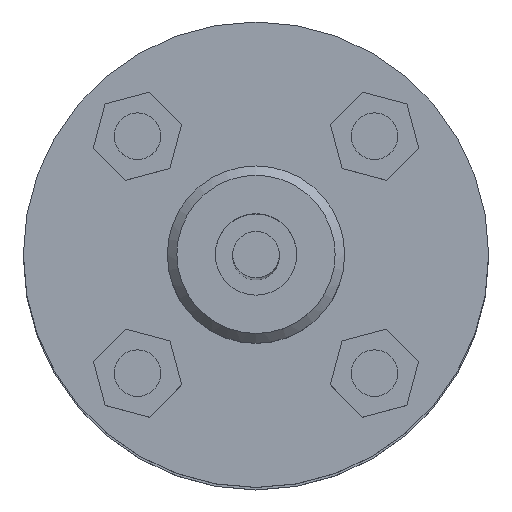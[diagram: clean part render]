
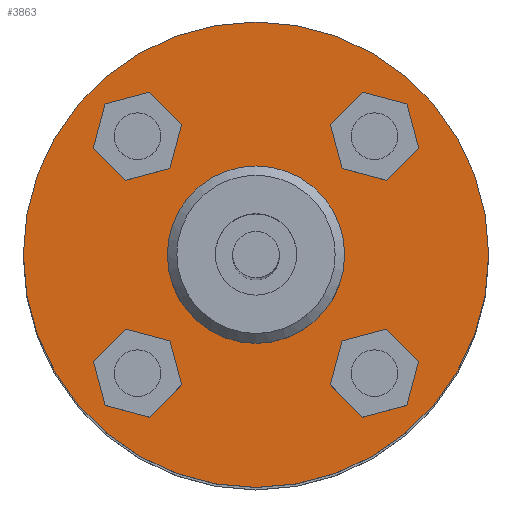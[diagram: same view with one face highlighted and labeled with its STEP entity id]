
A CAD part, top view. The second image highlights one B-rep face of the part: STEP entity #3863.
In plain terms, the highlighted planar face has unit normal (0, 0, 1).
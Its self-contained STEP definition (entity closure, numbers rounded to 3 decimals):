
#86=FACE_BOUND('',#739,.T.);
#87=FACE_BOUND('',#740,.T.);
#88=FACE_BOUND('',#741,.T.);
#89=FACE_BOUND('',#742,.T.);
#90=FACE_BOUND('',#743,.T.);
#91=FACE_BOUND('',#744,.T.);
#278=PLANE('',#4235);
#739=EDGE_LOOP('',(#3484,#3485,#3486,#3487,#3488,#3489));
#740=EDGE_LOOP('',(#3490,#3491,#3492,#3493,#3494,#3495));
#741=EDGE_LOOP('',(#3496,#3497,#3498,#3499,#3500,#3501));
#742=EDGE_LOOP('',(#3502,#3503,#3504,#3505,#3506,#3507));
#743=EDGE_LOOP('',(#3508));
#744=EDGE_LOOP('',(#3509));
#1047=LINE('',#6226,#1399);
#1051=LINE('',#6234,#1403);
#1054=LINE('',#6240,#1406);
#1057=LINE('',#6246,#1409);
#1060=LINE('',#6252,#1412);
#1063=LINE('',#6257,#1415);
#1065=LINE('',#6272,#1417);
#1069=LINE('',#6280,#1421);
#1072=LINE('',#6286,#1424);
#1075=LINE('',#6292,#1427);
#1078=LINE('',#6298,#1430);
#1081=LINE('',#6303,#1433);
#1083=LINE('',#6318,#1435);
#1087=LINE('',#6326,#1439);
#1090=LINE('',#6332,#1442);
#1093=LINE('',#6338,#1445);
#1096=LINE('',#6344,#1448);
#1099=LINE('',#6349,#1451);
#1101=LINE('',#6364,#1453);
#1105=LINE('',#6372,#1457);
#1108=LINE('',#6378,#1460);
#1111=LINE('',#6384,#1463);
#1114=LINE('',#6390,#1466);
#1117=LINE('',#6395,#1469);
#1399=VECTOR('',#5125,9.815);
#1403=VECTOR('',#5131,9.815);
#1406=VECTOR('',#5136,9.815);
#1409=VECTOR('',#5141,9.815);
#1412=VECTOR('',#5146,9.815);
#1415=VECTOR('',#5151,9.815);
#1417=VECTOR('',#5169,9.815);
#1421=VECTOR('',#5175,9.815);
#1424=VECTOR('',#5180,9.815);
#1427=VECTOR('',#5185,9.815);
#1430=VECTOR('',#5190,9.815);
#1433=VECTOR('',#5195,9.815);
#1435=VECTOR('',#5213,9.815);
#1439=VECTOR('',#5219,9.815);
#1442=VECTOR('',#5224,9.815);
#1445=VECTOR('',#5229,9.815);
#1448=VECTOR('',#5234,9.815);
#1451=VECTOR('',#5239,9.815);
#1453=VECTOR('',#5257,9.815);
#1457=VECTOR('',#5263,9.815);
#1460=VECTOR('',#5268,9.815);
#1463=VECTOR('',#5273,9.815);
#1466=VECTOR('',#5278,9.815);
#1469=VECTOR('',#5283,9.815);
#1620=CIRCLE('',#4230,19.05);
#1622=CIRCLE('',#4234,50.);
#1919=VERTEX_POINT('',#6224);
#1920=VERTEX_POINT('',#6225);
#1923=VERTEX_POINT('',#6233);
#1925=VERTEX_POINT('',#6239);
#1927=VERTEX_POINT('',#6245);
#1929=VERTEX_POINT('',#6251);
#1934=VERTEX_POINT('',#6270);
#1935=VERTEX_POINT('',#6271);
#1938=VERTEX_POINT('',#6279);
#1940=VERTEX_POINT('',#6285);
#1942=VERTEX_POINT('',#6291);
#1944=VERTEX_POINT('',#6297);
#1949=VERTEX_POINT('',#6316);
#1950=VERTEX_POINT('',#6317);
#1953=VERTEX_POINT('',#6325);
#1955=VERTEX_POINT('',#6331);
#1957=VERTEX_POINT('',#6337);
#1959=VERTEX_POINT('',#6343);
#1964=VERTEX_POINT('',#6362);
#1965=VERTEX_POINT('',#6363);
#1968=VERTEX_POINT('',#6371);
#1970=VERTEX_POINT('',#6377);
#1972=VERTEX_POINT('',#6383);
#1974=VERTEX_POINT('',#6389);
#1981=VERTEX_POINT('',#6414);
#1983=VERTEX_POINT('',#6420);
#2408=EDGE_CURVE('',#1919,#1920,#1047,.T.);
#2412=EDGE_CURVE('',#1920,#1923,#1051,.T.);
#2415=EDGE_CURVE('',#1923,#1925,#1054,.T.);
#2418=EDGE_CURVE('',#1925,#1927,#1057,.T.);
#2421=EDGE_CURVE('',#1927,#1929,#1060,.T.);
#2424=EDGE_CURVE('',#1929,#1919,#1063,.T.);
#2429=EDGE_CURVE('',#1934,#1935,#1065,.T.);
#2433=EDGE_CURVE('',#1935,#1938,#1069,.T.);
#2436=EDGE_CURVE('',#1938,#1940,#1072,.T.);
#2439=EDGE_CURVE('',#1940,#1942,#1075,.T.);
#2442=EDGE_CURVE('',#1942,#1944,#1078,.T.);
#2445=EDGE_CURVE('',#1944,#1934,#1081,.T.);
#2450=EDGE_CURVE('',#1949,#1950,#1083,.T.);
#2454=EDGE_CURVE('',#1950,#1953,#1087,.T.);
#2457=EDGE_CURVE('',#1953,#1955,#1090,.T.);
#2460=EDGE_CURVE('',#1955,#1957,#1093,.T.);
#2463=EDGE_CURVE('',#1957,#1959,#1096,.T.);
#2466=EDGE_CURVE('',#1959,#1949,#1099,.T.);
#2471=EDGE_CURVE('',#1964,#1965,#1101,.T.);
#2475=EDGE_CURVE('',#1965,#1968,#1105,.T.);
#2478=EDGE_CURVE('',#1968,#1970,#1108,.T.);
#2481=EDGE_CURVE('',#1970,#1972,#1111,.T.);
#2484=EDGE_CURVE('',#1972,#1974,#1114,.T.);
#2487=EDGE_CURVE('',#1974,#1964,#1117,.T.);
#2494=EDGE_CURVE('',#1981,#1981,#1620,.T.);
#2496=EDGE_CURVE('',#1983,#1983,#1622,.T.);
#3484=ORIENTED_EDGE('',*,*,#2408,.T.);
#3485=ORIENTED_EDGE('',*,*,#2412,.T.);
#3486=ORIENTED_EDGE('',*,*,#2415,.T.);
#3487=ORIENTED_EDGE('',*,*,#2418,.T.);
#3488=ORIENTED_EDGE('',*,*,#2421,.T.);
#3489=ORIENTED_EDGE('',*,*,#2424,.T.);
#3490=ORIENTED_EDGE('',*,*,#2429,.T.);
#3491=ORIENTED_EDGE('',*,*,#2433,.T.);
#3492=ORIENTED_EDGE('',*,*,#2436,.T.);
#3493=ORIENTED_EDGE('',*,*,#2439,.T.);
#3494=ORIENTED_EDGE('',*,*,#2442,.T.);
#3495=ORIENTED_EDGE('',*,*,#2445,.T.);
#3496=ORIENTED_EDGE('',*,*,#2450,.T.);
#3497=ORIENTED_EDGE('',*,*,#2454,.T.);
#3498=ORIENTED_EDGE('',*,*,#2457,.T.);
#3499=ORIENTED_EDGE('',*,*,#2460,.T.);
#3500=ORIENTED_EDGE('',*,*,#2463,.T.);
#3501=ORIENTED_EDGE('',*,*,#2466,.T.);
#3502=ORIENTED_EDGE('',*,*,#2471,.T.);
#3503=ORIENTED_EDGE('',*,*,#2475,.T.);
#3504=ORIENTED_EDGE('',*,*,#2478,.T.);
#3505=ORIENTED_EDGE('',*,*,#2481,.T.);
#3506=ORIENTED_EDGE('',*,*,#2484,.T.);
#3507=ORIENTED_EDGE('',*,*,#2487,.T.);
#3508=ORIENTED_EDGE('',*,*,#2494,.T.);
#3509=ORIENTED_EDGE('',*,*,#2496,.T.);
#3863=ADVANCED_FACE('',(#86,#87,#88,#89,#90,#91),#278,.T.);
#4230=AXIS2_PLACEMENT_3D('',#6415,#5309,#5310);
#4234=AXIS2_PLACEMENT_3D('',#6421,#5317,#5318);
#4235=AXIS2_PLACEMENT_3D('',#6422,#5319,#5320);
#5125=DIRECTION('',(-0.707,0.707,0.));
#5131=DIRECTION('',(0.259,0.966,0.));
#5136=DIRECTION('',(0.966,0.259,0.));
#5141=DIRECTION('',(0.707,-0.707,0.));
#5146=DIRECTION('',(-0.259,-0.966,0.));
#5151=DIRECTION('',(-0.966,-0.259,0.));
#5169=DIRECTION('',(0.707,0.707,0.));
#5175=DIRECTION('',(0.966,-0.259,0.));
#5180=DIRECTION('',(0.259,-0.966,0.));
#5185=DIRECTION('',(-0.707,-0.707,0.));
#5190=DIRECTION('',(-0.966,0.259,0.));
#5195=DIRECTION('',(-0.259,0.966,0.));
#5213=DIRECTION('',(0.707,-0.707,0.));
#5219=DIRECTION('',(-0.259,-0.966,0.));
#5224=DIRECTION('',(-0.966,-0.259,0.));
#5229=DIRECTION('',(-0.707,0.707,0.));
#5234=DIRECTION('',(0.259,0.966,0.));
#5239=DIRECTION('',(0.966,0.259,0.));
#5257=DIRECTION('',(-0.707,-0.707,0.));
#5263=DIRECTION('',(-0.966,0.259,0.));
#5268=DIRECTION('',(-0.259,0.966,0.));
#5273=DIRECTION('',(0.707,0.707,0.));
#5278=DIRECTION('',(0.966,-0.259,0.));
#5283=DIRECTION('',(0.259,-0.966,0.));
#5309=DIRECTION('center_axis',(0.,0.,-1.));
#5310=DIRECTION('ref_axis',(0.,1.,0.));
#5317=DIRECTION('center_axis',(0.,0.,1.));
#5318=DIRECTION('ref_axis',(-1.,0.,0.));
#5319=DIRECTION('center_axis',(0.,0.,1.));
#5320=DIRECTION('ref_axis',(1.,0.,0.));
#6224=CARTESIAN_POINT('',(22.916,-34.936,160.));
#6225=CARTESIAN_POINT('',(15.975,-27.996,160.));
#6226=CARTESIAN_POINT('',(4.982,-17.003,160.));
#6233=CARTESIAN_POINT('',(18.516,-18.516,160.));
#6234=CARTESIAN_POINT('',(20.21,-12.192,160.));
#6239=CARTESIAN_POINT('',(27.996,-15.975,160.));
#6240=CARTESIAN_POINT('',(16.933,-18.94,160.));
#6245=CARTESIAN_POINT('',(34.936,-22.916,160.));
#6246=CARTESIAN_POINT('',(20.473,-8.453,160.));
#6251=CARTESIAN_POINT('',(32.396,-32.396,160.));
#6252=CARTESIAN_POINT('',(35.361,-21.333,160.));
#6257=CARTESIAN_POINT('',(16.592,-36.631,160.));
#6270=CARTESIAN_POINT('',(-34.936,-22.916,160.));
#6271=CARTESIAN_POINT('',(-27.996,-15.975,160.));
#6272=CARTESIAN_POINT('',(-17.003,-4.982,160.));
#6279=CARTESIAN_POINT('',(-18.516,-18.516,160.));
#6280=CARTESIAN_POINT('',(-12.192,-20.21,160.));
#6285=CARTESIAN_POINT('',(-15.975,-27.996,160.));
#6286=CARTESIAN_POINT('',(-18.94,-16.933,160.));
#6291=CARTESIAN_POINT('',(-22.916,-34.936,160.));
#6292=CARTESIAN_POINT('',(-8.453,-20.473,160.));
#6297=CARTESIAN_POINT('',(-32.396,-32.396,160.));
#6298=CARTESIAN_POINT('',(-21.333,-35.361,160.));
#6303=CARTESIAN_POINT('',(-36.631,-16.592,160.));
#6316=CARTESIAN_POINT('',(-22.916,34.936,160.));
#6317=CARTESIAN_POINT('',(-15.975,27.996,160.));
#6318=CARTESIAN_POINT('',(-4.982,17.003,160.));
#6325=CARTESIAN_POINT('',(-18.516,18.516,160.));
#6326=CARTESIAN_POINT('',(-20.21,12.192,160.));
#6331=CARTESIAN_POINT('',(-27.996,15.975,160.));
#6332=CARTESIAN_POINT('',(-16.933,18.94,160.));
#6337=CARTESIAN_POINT('',(-34.936,22.916,160.));
#6338=CARTESIAN_POINT('',(-20.473,8.453,160.));
#6343=CARTESIAN_POINT('',(-32.396,32.396,160.));
#6344=CARTESIAN_POINT('',(-35.361,21.333,160.));
#6349=CARTESIAN_POINT('',(-16.592,36.631,160.));
#6362=CARTESIAN_POINT('',(34.936,22.916,160.));
#6363=CARTESIAN_POINT('',(27.996,15.975,160.));
#6364=CARTESIAN_POINT('',(17.003,4.982,160.));
#6371=CARTESIAN_POINT('',(18.516,18.516,160.));
#6372=CARTESIAN_POINT('',(12.192,20.21,160.));
#6377=CARTESIAN_POINT('',(15.975,27.996,160.));
#6378=CARTESIAN_POINT('',(18.94,16.933,160.));
#6383=CARTESIAN_POINT('',(22.916,34.936,160.));
#6384=CARTESIAN_POINT('',(8.453,20.473,160.));
#6389=CARTESIAN_POINT('',(32.396,32.396,160.));
#6390=CARTESIAN_POINT('',(21.333,35.361,160.));
#6395=CARTESIAN_POINT('',(36.631,16.592,160.));
#6414=CARTESIAN_POINT('',(0.,19.05,160.));
#6415=CARTESIAN_POINT('Origin',(0.,0.,160.));
#6420=CARTESIAN_POINT('',(50.,0.,160.));
#6421=CARTESIAN_POINT('Origin',(0.,0.,160.));
#6422=CARTESIAN_POINT('Origin',(0.,0.,
160.));
